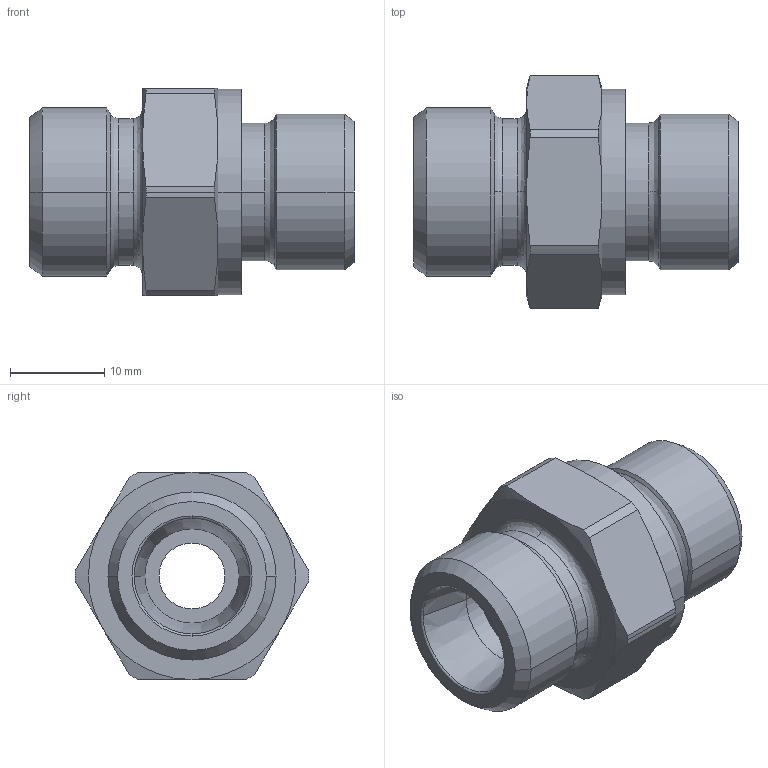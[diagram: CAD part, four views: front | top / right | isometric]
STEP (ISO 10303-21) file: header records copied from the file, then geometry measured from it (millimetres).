
FILE_DESCRIPTION((''),'2;1');
FILE_NAME('100516.stp','2007-10-30T14:16:24',(''),(''),'AutoCAD STEP 2000i','AutoCAD 2000i',', , ');
FILE_SCHEMA(('CONFIG_CONTROL_DESIGN'));
Length unit declared in the file: millimetre
Products named in the file (2): 100516.0; CHIAVE SMUSSATA#0
Assembly tree (1 placements, depth 2):
  100516.0
    CHIAVE SMUSSATA#0
Bounding box: 34.5 x 24.8 x 22 mm (x, y, z)
Volume: 7482.8 mm3; surface area: 3738.7 mm2
Topology: 1 solids, 1 shells, 75 faces, 185 edges, 117 vertices
Faces by surface type: cylinder 24, cone 24, plane 13, bspline 12, torus 2
Entity records: 2835 total; most frequent: CARTESIAN_POINT 955, DIRECTION 410, ORIENTED_EDGE 370, EDGE_CURVE 185, AXIS2_PLACEMENT_3D 184, CIRCLE 119, VERTEX_POINT 117, EDGE_LOOP 82
